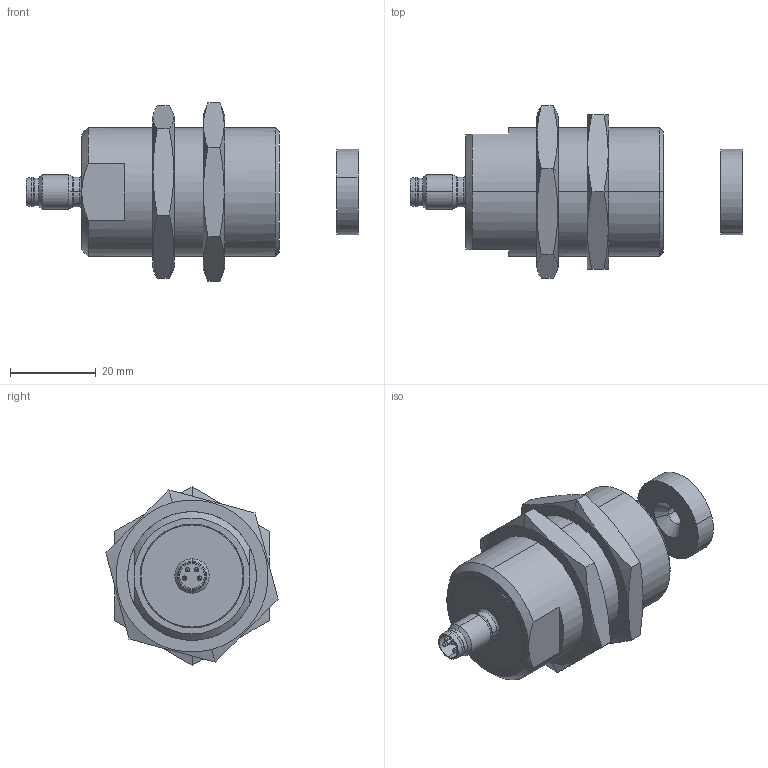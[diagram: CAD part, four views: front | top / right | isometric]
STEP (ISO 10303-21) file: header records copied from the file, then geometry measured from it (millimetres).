
FILE_DESCRIPTION((''),'2;1');
FILE_NAME('Z2607096-A_ASM','2010-11-05T',('11000065'),(''),'PRO/ENGINEER BY PARAMETRIC TECHNOLOGY CORPORATION, 2010180','PRO/ENGINEER BY PARAMETRIC TECHNOLOGY CORPORATION, 2010180','');
FILE_SCHEMA(('AUTOMOTIVE_DESIGN { 1 0 10303 214 1 1 1 1 }'));
Length unit declared in the file: millimetre
Products named in the file (4): MDS-45; MUTTERM32X1_5; MAGNETSCHEIBE; Z2607096-A_ASM
Assembly tree (4 placements, depth 2):
  Z2607096-A_ASM
    MDS-45
    MUTTERM32X1_5  x2
    MAGNETSCHEIBE
Bounding box: 77.41 x 40.15 x 41.57 mm (x, y, z)
Volume: 38775.9 mm3; surface area: 11886.4 mm2
Topology: 4 solids, 6 shells, 103 faces, 238 edges, 150 vertices
Faces by surface type: cylinder 34, plane 31, cone 26, bspline 8, torus 4
Entity records: 3649 total; most frequent: CARTESIAN_POINT 712, DIRECTION 476, ORIENTED_EDGE 396, AXIS2_PLACEMENT_3D 203, EDGE_CURVE 200, PRESENTATION_STYLE_ASSIGNMENT 189, STYLED_ITEM 189, CURVE_STYLE 184
